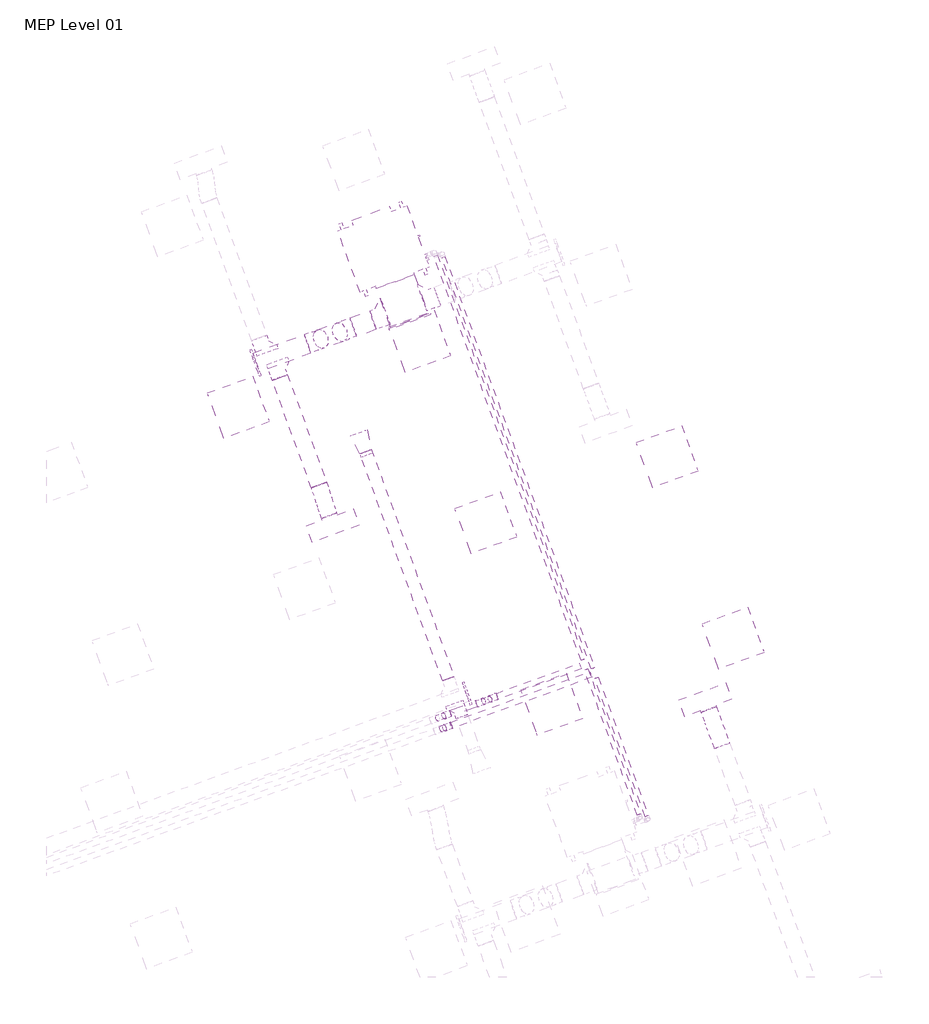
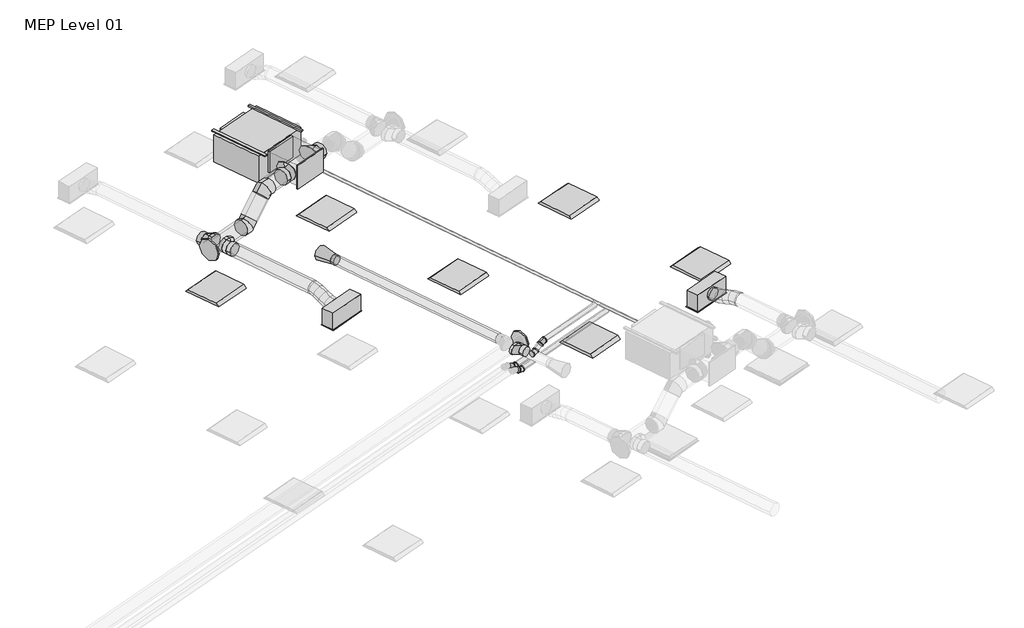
# One storey, part 28 of 29: 10 duct fittings, 10 pipe segments, 8 duct segments, 6 light fixtures, 4 pipe fittings, 3 air terminals, 1 proxy.
"""IFC4 building model written with IfcOpenShell, lengths in millimetres."""

from ifc_helpers import new_model, si_unit, point, frame, frame_2d, origin, place, context, project, spatial, polyline, circle_curve, ellipse_curve, trimmed, segment, composite_curve, outline, extrude, transform, mapped, element, save
from ifc_brep_helpers import plane_surface, cylinder_surface, advanced_brep
from components import air_terminal_b88b8e4d, supply_diffuser_with_plenum_linear_slot_hosted_8c379eed, fan_coil_unit_ceiling_ducted_chw_376_lps_233c1d69, dw144_rectangular_blank_end_standard_1669e3e3, dw144_round_blank_end_standard_e3d0b58b, dw144_round_blank_end_standard_5beff049, dw144_round_segmented_bend_slip_joint_standard_636bd9c1, dw144_round_shoe_branch_slip_joint_standard_559552f4, dw144_round_shoe_branch_slip_joint_standard_4a92c8a1, dw144_round_shoe_branch_slip_joint_standard_671412f0, dw144_round_shoe_branch_slip_joint_standard_54bfcc3c, light_fixture_600x600_230_1c7c1157, light_fixture_600x600_230_b730b5ca, elbow_threaded_gmi_standard_e52ea759

model = new_model("IFC4")

# Units and contexts
model_context = context("Model", 3, world=origin())
ifc_project = project(units=[si_unit("LENGTHUNIT", "METRE", prefix="MILLI")], contexts=[model_context])

# Site, building, storey
site = spatial("IfcSite", under=ifc_project)
building = spatial("IfcBuilding", under=site)
storey = spatial("IfcBuildingStorey", under=building, Name="MEP Level 01", Elevation=3900.0)

# Air terminals
placement = place(None, origin())
air_terminal_shape = air_terminal_b88b8e4d(model_context)
element("IfcAirTerminal", 1, ObjectType="Supply_Bell_Mouth_Grille : Supply_Bell_Mouth_Grille", at=placement, inside=storey, context=model_context, shape_type="MappedRepresentation", body=[
    mapped(air_terminal_shape, transform((58081.5319053, 19738.0197173, 7000.0), x_axis=(-0.3420201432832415, 0.9396926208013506, 0.0), y_axis=(-0.9396926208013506, -0.3420201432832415, 0.0), z_axis=(0.0, 0.0, 1.0))),
])
supply_diffuser_with_plenum_linear_slot_hosted_shape = supply_diffuser_with_plenum_linear_slot_hosted_8c379eed(model_context)
element("IfcAirTerminal", 2, ObjectType="Supply Diffuser with Plenum - Linear Slot - Hosted : 600mmx193.8mm-200 In Inlet  4-Slot", at=placement, inside=storey, context=model_context, shape_type="MappedRepresentation", body=[
    mapped(supply_diffuser_with_plenum_linear_slot_hosted_shape, transform((57672.5704775, 18817.9253945, 6700.0), x_axis=(0.939692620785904, 0.342020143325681, 0.0), y_axis=(0.342020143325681, -0.939692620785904, 0.0), z_axis=(0.0, 0.0, -1.0))),
])
element("IfcAirTerminal", 3, ObjectType="Supply Diffuser with Plenum - Linear Slot - Hosted : 600mmx193.8mm-200 In Inlet  4-Slot", at=placement, inside=storey, context=model_context, shape_type="MappedRepresentation", body=[
    mapped(supply_diffuser_with_plenum_linear_slot_hosted_shape, transform((62303.835891, 16653.5325978, 6700.0), x_axis=(-0.9396926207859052, -0.3420201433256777, 0.0), y_axis=(-0.3420201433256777, 0.9396926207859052, 0.0), z_axis=(0.0, 0.0, -1.0))),
])

# Proxy
fan_coil_unit_ceiling_ducted_chw_376_lps_shape = fan_coil_unit_ceiling_ducted_chw_376_lps_233c1d69(model_context)
element("IfcBuildingElementProxy", 4, Name="Fan Coil Unit - Ceiling Ducted - CHW : 376 LPS", ObjectType="Fan Coil Unit - Ceiling Ducted - CHW : 376 LPS", at=placement, inside=storey, context=model_context, shape_type="MappedRepresentation", body=[
    mapped(fan_coil_unit_ceiling_ducted_chw_376_lps_shape, transform((58013.066855, 21719.3871216, 7115.575), x_axis=(0.9396926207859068, 0.34202014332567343, 0.0), y_axis=(-0.34202014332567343, 0.9396926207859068, 0.0), z_axis=(0.0, 0.0, 1.0))),
])

# Duct fittings
dw144_rectangular_blank_end_standard_shape = dw144_rectangular_blank_end_standard_1669e3e3(model_context)
element("IfcDuctFitting", 5, ObjectType="DW144 Rectangular Blank End : Standard", at=placement, inside=storey, context=model_context, shape_type="MappedRepresentation", body=[
    mapped(dw144_rectangular_blank_end_standard_shape, transform((58629.0952993, 21363.6262528, 7369.575), x_axis=(0.34202014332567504, -0.9396926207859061, 0.0), y_axis=(0.9396926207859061, 0.34202014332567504, 0.0), z_axis=(0.0, 0.0, 1.0))),
])
dw144_round_blank_end_standard_shape = dw144_round_blank_end_standard_e3d0b58b(model_context)
element("IfcDuctFitting", 6, ObjectType="DW144 Round Blank End : Standard", at=placement, inside=storey, context=model_context, shape_type="MappedRepresentation", body=[
    mapped(dw144_round_blank_end_standard_shape, transform((56721.5404125, 20844.6765966, 6972.2088531), x_axis=(-0.9396926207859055, -0.3420201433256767, 0.0), y_axis=(0.3420201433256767, -0.9396926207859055, 0.0), z_axis=(0.0, 0.0, 1.0))),
])
dw144_round_blank_end_standard_2_shape = dw144_round_blank_end_standard_5beff049(model_context)
element("IfcDuctFitting", 7, ObjectType="DW144 Round Blank End : Standard", at=placement, inside=storey, context=model_context, shape_type="MappedRepresentation", body=[
    mapped(dw144_round_blank_end_standard_2_shape, transform((59334.3056083, 16727.5734979, 7000.0), x_axis=(0.9396926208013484, 0.34202014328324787, 0.0), y_axis=(-0.34202014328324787, 0.9396926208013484, 0.0), z_axis=(0.0, 0.0, 1.0))),
])
dw144_round_segmented_bend_slip_joint_standard_shape = dw144_round_segmented_bend_slip_joint_standard_636bd9c1(model_context)
element("IfcDuctFitting", 8, ObjectType="DW144 Round Segmented Bend - Slip Joint : Standard", at=placement, inside=storey, context=model_context, shape_type="MappedRepresentation", body=[
    mapped(dw144_round_segmented_bend_slip_joint_standard_shape, transform((57456.9817646, 21112.3553578, 6972.2088531), x_axis=(-0.6644630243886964, -0.24184476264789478, -0.7071067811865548), y_axis=(-0.6644630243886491, -0.24184476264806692, 0.7071067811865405), z_axis=(-0.34202014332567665, 0.9396926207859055, 0.0))),
])
element("IfcDuctFitting", 9, ObjectType="DW144 Round Segmented Bend - Slip Joint : Standard", at=placement, inside=storey, context=model_context, shape_type="MappedRepresentation", body=[
    mapped(dw144_round_segmented_bend_slip_joint_standard_shape, transform((57830.3838005, 21248.2625843, 7369.575), x_axis=(-0.9396926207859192, -0.3420201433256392, 0.0), y_axis=(0.0, 0.0, -1.0000000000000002), z_axis=(0.3420201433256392, -0.9396926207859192, 0.0))),
])
dw144_round_shoe_branch_slip_joint_standard_shape = dw144_round_shoe_branch_slip_joint_standard_559552f4(model_context)
element("IfcDuctFitting", 10, ObjectType="DW144 Round Shoe Branch - Slip Joint : Standard", at=placement, inside=storey, context=model_context, shape_type="MappedRepresentation", body=[
    mapped(dw144_round_shoe_branch_slip_joint_standard_shape, transform((56809.6255441, 21009.7591842, 6972.2088531), x_axis=(-0.3420201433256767, 0.9396926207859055, 0.0), y_axis=(0.9396926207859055, 0.3420201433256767, 0.0), z_axis=(0.0, 0.0, -1.0))),
])
element("IfcDuctFitting", 11, ObjectType="DW144 Round Shoe Branch - Slip Joint : Standard", at=placement, inside=storey, context=model_context, shape_type="MappedRepresentation", body=[
    mapped(dw144_round_shoe_branch_slip_joint_standard_shape, transform((56963.6827341, 20799.7869726, 6972.2088531), x_axis=(0.3420201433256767, -0.9396926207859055, 0.0), y_axis=(0.9396926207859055, 0.3420201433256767, 0.0), z_axis=(0.0, 0.0, 1.0))),
])
dw144_round_shoe_branch_slip_joint_standard_2_shape = dw144_round_shoe_branch_slip_joint_standard_4a92c8a1(model_context)
element("IfcDuctFitting", 12, ObjectType="DW144 Round Shoe Branch - Slip Joint : Standard", at=placement, inside=storey, context=model_context, shape_type="MappedRepresentation", body=[
    mapped(dw144_round_shoe_branch_slip_joint_standard_2_shape, transform((58807.6641261, 21603.9635334, 7369.575), x_axis=(0.9396926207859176, 0.3420201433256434, 0.0), y_axis=(0.3420201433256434, -0.9396926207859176, 0.0), z_axis=(0.0, 0.0, -1.0))),
])
dw144_round_shoe_branch_slip_joint_standard_3_shape = dw144_round_shoe_branch_slip_joint_standard_671412f0(model_context)
element("IfcDuctFitting", 13, ObjectType="DW144 Round Shoe Branch - Slip Joint : Standard", at=placement, inside=storey, context=model_context, shape_type="MappedRepresentation", body=[
    mapped(dw144_round_shoe_branch_slip_joint_standard_3_shape, transform((58337.8178157, 21432.9534617, 7369.575), x_axis=(-0.9396926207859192, -0.3420201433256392, 0.0), y_axis=(-0.3420201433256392, 0.9396926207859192, 0.0), z_axis=(0.0, 0.0, -1.0))),
])
dw144_round_shoe_branch_slip_joint_standard_4_shape = dw144_round_shoe_branch_slip_joint_standard_54bfcc3c(model_context)
element("IfcDuctFitting", 14, ObjectType="DW144 Round Shoe Branch - Slip Joint : Standard", at=placement, inside=storey, context=model_context, shape_type="MappedRepresentation", body=[
    mapped(dw144_round_shoe_branch_slip_joint_standard_4_shape, transform((59229.8193689, 16583.1258396, 7000.0), x_axis=(0.3420201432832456, -0.9396926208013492, 0.0), y_axis=(-0.9396926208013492, -0.3420201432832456, 0.0), z_axis=(0.0, 0.0, -1.0))),
])

# Duct segments
element("IfcDuctSegment", 15, ObjectType="DW144 Flanged Med Radius Bend / Shoe Branch", at=placement, inside=storey, context=model_context, shape_type="SweptSolid", body=[
    extrude(outline(polyline([(58216.4584777, 21766.3855027), (58686.3047881, 21937.3955743), (58864.0184545, 21449.1312886), (58394.1721442, 21278.1212169), (58216.4584777, 21766.3855027)])), frame((0.0, 0.0, 7194.575), z_axis=(0.0, 0.0, 1.0), x_axis=(1.0, 0.0, 0.0)), (0.0, 0.0, 1.0), 350.0),
])
element("IfcDuctSegment", 16, ObjectType="DW144 Segmented Bend / Shoe Branch", at=placement, inside=storey, context=model_context, shape_type="SweptSolid", body=[
    extrude(outline(composite_curve([segment(trimmed(circle_curve(frame_2d((0.0, 125.0)), 125.0), [point((125.0, 125.0))], [point((0.0, 0.0))], False, "CARTESIAN"), True, "CONTINUOUS"), segment(trimmed(circle_curve(frame_2d((0.0, 125.0)), 125.0), [point((0.0, 0.0))], [point((-125.0, 125.0))], False, "CARTESIAN"), True, "CONTINUOUS"), segment(trimmed(circle_curve(frame_2d((0.0, 125.0)), 125.0), [point((-125.0, 125.0))], [point((0.0, 250.0))], False, "CARTESIAN"), True, "CONTINUOUS"), segment(trimmed(circle_curve(frame_2d((0.0, 125.0)), 125.0), [point((0.0, 250.0))], [point((125.0, 125.0))], False, "CARTESIAN"), True, "CONTINUOUS")], self_intersect=False)), frame((56721.5404125, 20844.6765966, 7097.2088531), z_axis=(0.9396926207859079, 0.3420201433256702, 0.0), x_axis=(0.3420201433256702, -0.9396926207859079, 0.0)), (0.0, 0.0, 1.0), 679.0869492),
])
element("IfcDuctSegment", 17, ObjectType="DW144 Segmented Bend / Shoe Branch", at=placement, inside=storey, context=model_context, shape_type="SweptSolid", body=[
    extrude(outline(composite_curve([segment(trimmed(circle_curve(frame_2d((0.0, 100.0)), 100.0), [point((100.0, 100.0))], [point((0.0, 0.0))], False, "CARTESIAN"), True, "CONTINUOUS"), segment(trimmed(circle_curve(frame_2d((0.0, 100.0)), 100.0), [point((0.0, 0.0))], [point((-100.0, 100.0))], False, "CARTESIAN"), True, "CONTINUOUS"), segment(trimmed(circle_curve(frame_2d((0.0, 100.0)), 100.0), [point((-100.0, 100.0))], [point((0.0, 200.0))], False, "CARTESIAN"), True, "CONTINUOUS"), segment(trimmed(circle_curve(frame_2d((0.0, 100.0)), 100.0), [point((0.0, 200.0))], [point((100.0, 100.0))], False, "CARTESIAN"), True, "CONTINUOUS")], self_intersect=False)), frame((57501.7133926, 19321.5598874, 7072.2088531), z_axis=(-0.34202014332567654, 0.9396926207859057, 0.0), x_axis=(0.9396926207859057, 0.34202014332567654, 0.0)), (0.0, 0.0, 1.0), 1423.0964067),
])
element("IfcDuctSegment", 18, ObjectType="DW144 Segmented Bend / Shoe Branch", at=placement, inside=storey, context=model_context, shape_type="SweptSolid", body=[
    extrude(outline(composite_curve([segment(trimmed(circle_curve(frame_2d((0.0, -125.0)), 125.0), [point((-125.0, -125.0))], [point((0.0, 0.0))], False, "CARTESIAN"), True, "CONTINUOUS"), segment(trimmed(circle_curve(frame_2d((0.0, -125.0)), 125.0), [point((0.0, 0.0))], [point((125.0, -125.0))], False, "CARTESIAN"), True, "CONTINUOUS"), segment(trimmed(circle_curve(frame_2d((0.0, -125.0)), 125.0), [point((125.0, -125.0))], [point((0.0, -250.0))], False, "CARTESIAN"), True, "CONTINUOUS"), segment(trimmed(circle_curve(frame_2d((0.0, -125.0)), 125.0), [point((0.0, -250.0))], [point((-125.0, -125.0))], False, "CARTESIAN"), True, "CONTINUOUS")], self_intersect=False)), frame((57927.6921575, 21283.6799298, 7244.575), z_axis=(0.9396926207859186, 0.3420201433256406, 0.0), x_axis=(0.3420201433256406, -0.9396926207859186, 0.0)), (0.0, 0.0, 1.0), 261.4466094),
])
element("IfcDuctSegment", 19, ObjectType="DW144 Segmented Bend / Shoe Branch", at=placement, inside=storey, context=model_context, shape_type="SweptSolid", body=[
    extrude(outline(composite_curve([segment(trimmed(circle_curve(frame_2d((0.0, -124.9999999)), 125.0), [point((-57.2076923, -13.8591886))], [point((111.1408113, -67.7923077))], False, "CARTESIAN"), True, "CONTINUOUS"), segment(trimmed(circle_curve(frame_2d((0.0, -124.9999999)), 125.0), [point((111.1408113, -67.7923077))], [point((57.2076923, -236.1408113))], False, "CARTESIAN"), True, "CONTINUOUS"), segment(trimmed(circle_curve(frame_2d((0.0, -124.9999999)), 125.0), [point((57.2076923, -236.1408113))], [point((-111.1408114, -182.2076923))], False, "CARTESIAN"), True, "CONTINUOUS"), segment(trimmed(circle_curve(frame_2d((0.0, -124.9999999)), 125.0), [point((-111.1408114, -182.2076923))], [point((-57.2076923, -13.8591886))], False, "CARTESIAN"), True, "CONTINUOUS")], self_intersect=False)), frame((57525.7891637, 21255.672784, 7004.9802107), z_axis=(0.6644630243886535, 0.24184476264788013, 0.7071067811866), x_axis=(0.7473211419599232, -0.21503058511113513, -0.6287073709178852)), (0.0, 0.0, 1.0), 354.8538129),
])
element("IfcDuctSegment", 20, ObjectType="DW144 Segmented Bend / Shoe Branch", at=placement, inside=storey, context=model_context, shape_type="SweptSolid", body=[
    extrude(outline(composite_curve([segment(trimmed(circle_curve(frame_2d((0.0, 75.0)), 75.0), [point((75.0, 75.0))], [point((0.0, 0.0))], False, "CARTESIAN"), True, "CONTINUOUS"), segment(trimmed(circle_curve(frame_2d((0.0, 75.0)), 75.0), [point((0.0, 0.0))], [point((-75.0, 75.0))], False, "CARTESIAN"), True, "CONTINUOUS"), segment(trimmed(circle_curve(frame_2d((0.0, 75.0)), 75.0), [point((-75.0, 75.0))], [point((0.0, 150.0))], False, "CARTESIAN"), True, "CONTINUOUS"), segment(trimmed(circle_curve(frame_2d((0.0, 75.0)), 75.0), [point((0.0, 150.0))], [point((75.0, 75.0))], False, "CARTESIAN"), True, "CONTINUOUS")], self_intersect=False)), frame((59110.1123187, 16912.0182569, 7075.0), z_axis=(-0.3420201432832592, 0.9396926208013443, 0.0), x_axis=(0.9396926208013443, 0.3420201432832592, 0.0)), (0.0, 0.0, 1.0), 3007.3679391),
])
element("IfcDuctSegment", 21, ObjectType="Flex - Round", at=placement, inside=storey, context=model_context, shape_type="AdvancedBrep", body=[
    advanced_brep(
    [(57595.6826547, 19355.7619017, 6972.2088531), (57501.7133926, 19321.5598874, 6872.2088531), (57407.7441305, 19287.3578731, 6972.2088531), (57501.7133926, 19321.5598874, 7072.2088531), (57602.1041255, 19338.1190557, 6972.2088531), (57504.0916899, 19315.0255693, 6872.2088531), (57413.4350701, 19271.722145, 6972.2088531), (57511.4475057, 19294.8156315, 7072.2088531), (57722.4533431, 18973.2537876, 6854.4), (57628.484081, 18939.0517733, 6954.4), (57534.5148189, 18904.849759, 6854.4), (57628.484081, 18939.0517733, 6754.4), (57629.9247331, 19256.2182403, 6953.3905604), (57525.1921039, 19252.9082665, 6857.9362042), (57440.0414556, 19193.3958665, 6954.2118792), (57544.7740848, 19196.7058403, 7049.6662355), (57660.283183, 19160.955101, 6912.5672617), (57552.8628863, 19166.0788793, 6820.7270377), (57469.9142906, 19099.6565597, 6914.0415914), (57577.3345874, 19094.5327814, 7005.8818154), (57690.1560181, 19067.2157942, 6872.3969739), (57585.4233888, 19063.9058204, 6776.9426177), (57500.2727405, 19004.3934204, 6873.2182927), (57605.0053698, 19007.7033942, 6968.6726489), (57716.7624035, 18988.8895157, 6854.4), (57618.7499679, 18965.7960292, 6754.4), (57528.0933481, 18922.492605, 6854.4), (57626.1057837, 18945.5860914, 6954.4)],
    [
        (0, 1, circle_curve(frame((57501.7133926, 19321.5598874, 6972.2088531), z_axis=(-0.34202014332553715, 0.9396926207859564, 0.0), x_axis=(0.9396926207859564, 0.34202014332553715, 0.0)), 100.0)),
        (1, 2, circle_curve(frame((57501.7133926, 19321.5598874, 6972.2088531), z_axis=(-0.34202014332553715, 0.9396926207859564, 0.0), x_axis=(0.9396926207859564, 0.34202014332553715, 0.0)), 100.0)),
        (2, 3, circle_curve(frame((57501.7133926, 19321.5598874, 6972.2088531), z_axis=(-0.34202014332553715, 0.9396926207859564, 0.0), x_axis=(0.9396926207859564, 0.34202014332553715, 0.0)), 100.0)),
        (3, 0, circle_curve(frame((57501.7133926, 19321.5598874, 6972.2088531), z_axis=(-0.34202014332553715, 0.9396926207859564, 0.0), x_axis=(0.9396926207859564, 0.34202014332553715, 0.0)), 100.0)),
        (0, 4),
        (4, 5, ellipse_curve(frame((57507.7695978, 19304.9206004, 6972.2088531), z_axis=(-0.3300629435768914, 0.9378849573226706, 0.10691239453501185), x_axis=(-0.1290757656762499, 0.06735376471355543, -0.9893446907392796)), 100.582195, 100.0)),
        (5, 1),
        (5, 6, ellipse_curve(frame((57507.7695978, 19304.9206004, 6972.2088531), z_axis=(-0.3300629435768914, 0.9378849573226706, 0.10691239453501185), x_axis=(-0.1290757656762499, 0.06735376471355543, -0.9893446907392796)), 100.582195, 100.0)),
        (6, 2),
        (6, 7, ellipse_curve(frame((57507.7695978, 19304.9206004, 6972.2088531), z_axis=(-0.3300629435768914, 0.9378849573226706, 0.10691239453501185), x_axis=(-0.1290757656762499, 0.06735376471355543, -0.9893446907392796)), 100.582195, 100.0)),
        (7, 3),
        (7, 4, ellipse_curve(frame((57507.7695978, 19304.9206004, 6972.2088531), z_axis=(-0.3300629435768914, 0.9378849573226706, 0.10691239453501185), x_axis=(-0.1290757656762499, 0.06735376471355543, -0.9893446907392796)), 100.582195, 100.0)),
        (8, 9, circle_curve(frame((57628.484081, 18939.0517733, 6854.4), z_axis=(0.342020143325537, -0.9396926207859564, 0.0), x_axis=(0.9396926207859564, 0.342020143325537, 0.0)), 100.0)),
        (9, 10, circle_curve(frame((57628.484081, 18939.0517733, 6854.4), z_axis=(0.342020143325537, -0.9396926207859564, 0.0), x_axis=(0.9396926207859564, 0.342020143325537, 0.0)), 100.0)),
        (10, 11, circle_curve(frame((57628.484081, 18939.0517733, 6854.4), z_axis=(0.342020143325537, -0.9396926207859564, 0.0), x_axis=(0.9396926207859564, 0.342020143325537, 0.0)), 100.0)),
        (11, 8, circle_curve(frame((57628.484081, 18939.0517733, 6854.4), z_axis=(0.342020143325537, -0.9396926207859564, 0.0), x_axis=(0.9396926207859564, 0.342020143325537, 0.0)), 100.0)),
        (4, 12),
        (12, 13, ellipse_curve(frame((57534.9830943, 19224.8070534, 6953.8012198), z_axis=(-0.2988301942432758, 0.9071022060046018, 0.29642217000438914), x_axis=(-0.19053245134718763, 0.2476495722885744, -0.9499300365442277)), 100.3812182, 100.0)),
        (13, 5),
        (13, 14, ellipse_curve(frame((57534.9830943, 19224.8070534, 6953.8012198), z_axis=(-0.2988301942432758, 0.9071022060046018, 0.29642217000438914), x_axis=(-0.19053245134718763, 0.2476495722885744, -0.9499300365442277)), 100.3812182, 100.0)),
        (14, 6),
        (14, 15, ellipse_curve(frame((57534.9830943, 19224.8070534, 6953.8012198), z_axis=(-0.2988301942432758, 0.9071022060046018, 0.29642217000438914), x_axis=(-0.19053245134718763, 0.2476495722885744, -0.9499300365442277)), 100.3812182, 100.0)),
        (15, 7),
        (15, 12, ellipse_curve(frame((57534.9830943, 19224.8070534, 6953.8012198), z_axis=(-0.2988301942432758, 0.9071022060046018, 0.29642217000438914), x_axis=(-0.19053245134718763, 0.2476495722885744, -0.9499300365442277)), 100.3812182, 100.0)),
        (12, 16),
        (16, 17, circle_curve(frame((57565.0987368, 19130.3058303, 6913.3044266), z_axis=(-0.2811058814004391, 0.8820947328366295, 0.3780057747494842), x_axis=(0.9518444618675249, 0.3064927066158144, -0.007371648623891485)), 100.0)),
        (17, 13),
        (17, 18, circle_curve(frame((57565.0987368, 19130.3058303, 6913.3044266), z_axis=(-0.2811058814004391, 0.8820947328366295, 0.3780057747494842), x_axis=(0.9518444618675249, 0.3064927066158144, -0.007371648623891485)), 100.0)),
        (18, 14),
        (18, 19, circle_curve(frame((57565.0987368, 19130.3058303, 6913.3044266), z_axis=(-0.2811058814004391, 0.8820947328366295, 0.3780057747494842), x_axis=(0.9518444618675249, 0.3064927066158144, -0.007371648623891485)), 100.0)),
        (19, 15),
        (19, 16, circle_curve(frame((57565.0987368, 19130.3058303, 6913.3044266), z_axis=(-0.2811058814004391, 0.8820947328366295, 0.3780057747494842), x_axis=(0.9518444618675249, 0.3064927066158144, -0.007371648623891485)), 100.0)),
        (16, 20),
        (20, 21, ellipse_curve(frame((57595.2143793, 19035.8046073, 6872.8076333), z_axis=(-0.2988301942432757, 0.9071022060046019, 0.2964221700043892), x_axis=(0.19053245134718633, -0.24764957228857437, 0.9499300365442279)), 100.3812182, 100.0)),
        (21, 17),
        (21, 22, ellipse_curve(frame((57595.2143793, 19035.8046073, 6872.8076333), z_axis=(-0.2988301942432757, 0.9071022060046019, 0.2964221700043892), x_axis=(0.19053245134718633, -0.24764957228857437, 0.9499300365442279)), 100.3812182, 100.0)),
        (22, 18),
        (22, 23, ellipse_curve(frame((57595.2143793, 19035.8046073, 6872.8076333), z_axis=(-0.2988301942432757, 0.9071022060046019, 0.2964221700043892), x_axis=(0.19053245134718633, -0.24764957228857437, 0.9499300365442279)), 100.3812182, 100.0)),
        (23, 19),
        (23, 20, ellipse_curve(frame((57595.2143793, 19035.8046073, 6872.8076333), z_axis=(-0.2988301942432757, 0.9071022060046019, 0.2964221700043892), x_axis=(0.19053245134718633, -0.24764957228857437, 0.9499300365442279)), 100.3812182, 100.0)),
        (20, 24),
        (24, 25, ellipse_curve(frame((57622.4278758, 18955.6910603, 6854.4), z_axis=(-0.3300629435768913, 0.9378849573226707, 0.10691239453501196), x_axis=(0.12907576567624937, -0.06735376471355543, 0.9893446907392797)), 100.582195, 100.0)),
        (25, 21),
        (25, 26, ellipse_curve(frame((57622.4278758, 18955.6910603, 6854.4), z_axis=(-0.3300629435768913, 0.9378849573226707, 0.10691239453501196), x_axis=(0.12907576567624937, -0.06735376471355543, 0.9893446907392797)), 100.582195, 100.0)),
        (26, 22),
        (26, 27, ellipse_curve(frame((57622.4278758, 18955.6910603, 6854.4), z_axis=(-0.3300629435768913, 0.9378849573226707, 0.10691239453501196), x_axis=(0.12907576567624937, -0.06735376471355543, 0.9893446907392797)), 100.582195, 100.0)),
        (27, 23),
        (27, 24, ellipse_curve(frame((57622.4278758, 18955.6910603, 6854.4), z_axis=(-0.3300629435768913, 0.9378849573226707, 0.10691239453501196), x_axis=(0.12907576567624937, -0.06735376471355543, 0.9893446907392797)), 100.582195, 100.0)),
        (24, 8),
        (11, 25),
        (10, 26),
        (9, 27),
    ],
    [
        plane_surface(frame((57501.7133926, 19321.5598874, 6872.2088531), z_axis=(-0.3420201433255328, 0.9396926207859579, 0.0), x_axis=(0.9396926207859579, 0.3420201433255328, 0.0))),
        cylinder_surface(frame((57501.7133926, 19321.5598874, 6972.2088531), z_axis=(-0.34202014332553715, 0.9396926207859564, 0.0), x_axis=(0.9396926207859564, 0.34202014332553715, 0.0)), 100.0),
        plane_surface(frame((57628.484081, 18939.0517733, 6754.4), z_axis=(0.3420201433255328, -0.9396926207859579, 0.0), x_axis=(0.9396926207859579, 0.3420201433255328, 0.0))),
        cylinder_surface(frame((57507.7695978, 19304.9206004, 6972.2088531), z_axis=(-0.3142847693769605, 0.925219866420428, 0.21258711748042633), x_axis=(0.9467017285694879, 0.32210352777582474, -0.0022703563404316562)), 100.0),
        cylinder_surface(frame((57534.9830943, 19224.8070534, 6953.8012198), z_axis=(-0.281105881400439, 0.8820947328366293, 0.3780057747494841), x_axis=(0.9518444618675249, 0.3064927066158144, -0.007371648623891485)), 100.0),
        cylinder_surface(frame((57565.0987368, 19130.3058303, 6913.3044266), z_axis=(-0.281105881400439, 0.8820947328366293, 0.37800577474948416), x_axis=(0.9518444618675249, 0.3064927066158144, -0.007371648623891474)), 100.0),
        cylinder_surface(frame((57595.2143793, 19035.8046073, 6872.8076333), z_axis=(-0.3142847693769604, 0.9252198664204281, 0.21258711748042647), x_axis=(0.9467017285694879, 0.32210352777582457, -0.0022703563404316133)), 100.0),
        cylinder_surface(frame((57622.4278758, 18955.6910603, 6854.4), z_axis=(-0.342020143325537, 0.9396926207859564, 0.0), x_axis=(0.9396926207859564, 0.342020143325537, 0.0)), 100.0),
    ],
    [
        (0, [[1, 2, 3, 4]]),
        (1, [[-1, 5, 6, 7]]),
        (1, [[-2, -7, 8, 9]]),
        (1, [[-3, -9, 10, 11]]),
        (1, [[-4, -11, 12, -5]]),
        (2, [[13, 14, 15, 16]]),
        (3, [[-6, 17, 18, 19]]),
        (3, [[-8, -19, 20, 21]]),
        (3, [[-10, -21, 22, 23]]),
        (3, [[-12, -23, 24, -17]]),
        (4, [[-18, 25, 26, 27]]),
        (4, [[-20, -27, 28, 29]]),
        (4, [[-22, -29, 30, 31]]),
        (4, [[-24, -31, 32, -25]]),
        (5, [[-26, 33, 34, 35]]),
        (5, [[-28, -35, 36, 37]]),
        (5, [[-30, -37, 38, 39]]),
        (5, [[-32, -39, 40, -33]]),
        (6, [[-34, 41, 42, 43]]),
        (6, [[-36, -43, 44, 45]]),
        (6, [[-38, -45, 46, 47]]),
        (6, [[-40, -47, 48, -41]]),
        (7, [[-42, 49, -16, 50]]),
        (7, [[-44, -50, -15, 51]]),
        (7, [[-46, -51, -14, 52]]),
        (7, [[-48, -52, -13, -49]]),
    ],
),
])
element("IfcDuctSegment", 22, ObjectType="Flex - Round", at=placement, inside=storey, context=model_context, shape_type="AdvancedBrep", body=[
    advanced_brep(
    [(62419.4860197, 16043.4060404, 6972.2088531), (62513.4552818, 16077.6080547, 6872.2088531), (62607.4245439, 16111.8100691, 6972.2088531), (62513.4552818, 16077.6080547, 7072.2088531), (62414.3964087, 16057.3896319, 6972.2088531), (62511.2743759, 16083.6000445, 6872.2088531), (62602.3349328, 16125.7936606, 6972.2088531), (62505.4569656, 16099.583248, 7072.2088531), (62253.9530254, 16498.2042046, 6854.4), (62347.9222874, 16532.406219, 6954.4), (62441.8915495, 16566.6082333, 6854.4), (62347.9222874, 16532.406219, 6754.4), (62377.6496427, 16158.3505416, 6953.8012198), (62480.0398713, 16169.4161407, 6856.5624883), (62565.5881669, 16226.7545703, 6953.8012198), (62463.1979383, 16215.6889712, 7051.0399514), (62336.7195226, 16270.8051225, 6913.3044266), (62441.6520069, 16274.8859312, 6818.581036), (62524.6580467, 16339.2091512, 6913.3044266), (62419.7255623, 16335.1283425, 7008.0278172), (62295.7894024, 16383.2597034, 6872.8076333), (62398.179631, 16394.3253025, 6775.5689017), (62483.7279266, 16451.6637321, 6872.8076333), (62381.337698, 16440.598133, 6970.0463649), (62259.0426364, 16484.2206131, 6854.4), (62355.9206037, 16510.4310257, 6754.4), (62446.9811606, 16552.6246418, 6854.4), (62350.1031934, 16526.4142292, 6954.4)],
    [
        (0, 1, circle_curve(frame((62513.4552818, 16077.6080547, 6972.2088531), z_axis=(0.34202014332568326, -0.9396926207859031, 0.0), x_axis=(-0.9396926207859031, -0.34202014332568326, 0.0)), 100.0)),
        (1, 2, circle_curve(frame((62513.4552818, 16077.6080547, 6972.2088531), z_axis=(0.34202014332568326, -0.9396926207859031, 0.0), x_axis=(-0.9396926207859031, -0.34202014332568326, 0.0)), 100.0)),
        (2, 3, circle_curve(frame((62513.4552818, 16077.6080547, 6972.2088531), z_axis=(0.34202014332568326, -0.9396926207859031, 0.0), x_axis=(-0.9396926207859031, -0.34202014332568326, 0.0)), 100.0)),
        (3, 0, circle_curve(frame((62513.4552818, 16077.6080547, 6972.2088531), z_axis=(0.34202014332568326, -0.9396926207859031, 0.0), x_axis=(-0.9396926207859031, -0.34202014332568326, 0.0)), 100.0)),
        (0, 4),
        (4, 5, ellipse_curve(frame((62508.3656707, 16091.5916462, 6972.2088531), z_axis=(0.3407899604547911, -0.936312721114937, 0.08473895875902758), x_axis=(0.02898243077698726, -0.07962857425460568, -0.9964031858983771)), 100.3609798, 100.0)),
        (5, 1),
        (5, 6, ellipse_curve(frame((62508.3656707, 16091.5916462, 6972.2088531), z_axis=(0.3407899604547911, -0.936312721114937, 0.08473895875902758), x_axis=(0.02898243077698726, -0.07962857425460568, -0.9964031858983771)), 100.3609798, 100.0)),
        (6, 2),
        (6, 7, ellipse_curve(frame((62508.3656707, 16091.5916462, 6972.2088531), z_axis=(0.3407899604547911, -0.936312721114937, 0.08473895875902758), x_axis=(0.02898243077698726, -0.07962857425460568, -0.9964031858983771)), 100.3609798, 100.0)),
        (7, 3),
        (7, 4, ellipse_curve(frame((62508.3656707, 16091.5916462, 6972.2088531), z_axis=(0.3407899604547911, -0.936312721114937, 0.08473895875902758), x_axis=(0.02898243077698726, -0.07962857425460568, -0.9964031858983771)), 100.3609798, 100.0)),
        (8, 9, circle_curve(frame((62347.9222874, 16532.406219, 6854.4), z_axis=(-0.342020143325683, 0.9396926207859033, 0.0), x_axis=(-0.9396926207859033, -0.342020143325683, 0.0)), 100.0)),
        (9, 10, circle_curve(frame((62347.9222874, 16532.406219, 6854.4), z_axis=(-0.342020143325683, 0.9396926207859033, 0.0), x_axis=(-0.9396926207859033, -0.342020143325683, 0.0)), 100.0)),
        (10, 11, circle_curve(frame((62347.9222874, 16532.406219, 6854.4), z_axis=(-0.342020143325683, 0.9396926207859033, 0.0), x_axis=(-0.9396926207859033, -0.342020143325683, 0.0)), 100.0)),
        (11, 8, circle_curve(frame((62347.9222874, 16532.406219, 6854.4), z_axis=(-0.342020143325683, 0.9396926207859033, 0.0), x_axis=(-0.9396926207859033, -0.342020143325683, 0.0)), 100.0)),
        (4, 12),
        (12, 13, ellipse_curve(frame((62471.6189048, 16192.552556, 6953.8012198), z_axis=(0.3315567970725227, -0.9109448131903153, 0.24545801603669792), x_axis=(0.08395158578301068, -0.23065508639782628, -0.9694072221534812)), 100.307414, 100.0)),
        (13, 5),
        (13, 14, ellipse_curve(frame((62471.6189048, 16192.552556, 6953.8012198), z_axis=(0.3315567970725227, -0.9109448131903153, 0.24545801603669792), x_axis=(0.08395158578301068, -0.23065508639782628, -0.9694072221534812)), 100.307414, 100.0)),
        (14, 6),
        (14, 15, ellipse_curve(frame((62471.6189048, 16192.552556, 6953.8012198), z_axis=(0.3315567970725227, -0.9109448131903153, 0.24545801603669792), x_axis=(0.08395158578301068, -0.23065508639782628, -0.9694072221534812)), 100.307414, 100.0)),
        (15, 7),
        (15, 12, ellipse_curve(frame((62471.6189048, 16192.552556, 6953.8012198), z_axis=(0.3315567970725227, -0.9109448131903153, 0.24545801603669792), x_axis=(0.08395158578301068, -0.23065508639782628, -0.9694072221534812)), 100.307414, 100.0)),
        (12, 16),
        (16, 17, circle_curve(frame((62430.6887846, 16305.0071368, 6913.3044266), z_axis=(0.32397307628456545, -0.8901087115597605, 0.3205431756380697), x_axis=(-0.9396926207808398, -0.34202014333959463, 2.442978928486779e-12)), 100.0)),
        (17, 13),
        (17, 18, circle_curve(frame((62430.6887846, 16305.0071368, 6913.3044266), z_axis=(0.32397307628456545, -0.8901087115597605, 0.3205431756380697), x_axis=(-0.9396926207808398, -0.34202014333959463, 2.442978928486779e-12)), 100.0)),
        (18, 14),
        (18, 19, circle_curve(frame((62430.6887846, 16305.0071368, 6913.3044266), z_axis=(0.32397307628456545, -0.8901087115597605, 0.3205431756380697), x_axis=(-0.9396926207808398, -0.34202014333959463, 2.442978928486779e-12)), 100.0)),
        (19, 15),
        (19, 16, circle_curve(frame((62430.6887846, 16305.0071368, 6913.3044266), z_axis=(0.32397307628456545, -0.8901087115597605, 0.3205431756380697), x_axis=(-0.9396926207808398, -0.34202014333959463, 2.442978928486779e-12)), 100.0)),
        (16, 20),
        (20, 21, ellipse_curve(frame((62389.7586645, 16417.4617177, 6872.8076333), z_axis=(0.3315567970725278, -0.9109448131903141, 0.2454580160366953), x_axis=(-0.08395158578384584, 0.23065508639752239, 0.9694072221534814)), 100.307414, 100.0)),
        (21, 17),
        (21, 22, ellipse_curve(frame((62389.7586645, 16417.4617177, 6872.8076333), z_axis=(0.3315567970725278, -0.9109448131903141, 0.2454580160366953), x_axis=(-0.08395158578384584, 0.23065508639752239, 0.9694072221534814)), 100.307414, 100.0)),
        (22, 18),
        (22, 23, ellipse_curve(frame((62389.7586645, 16417.4617177, 6872.8076333), z_axis=(0.3315567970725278, -0.9109448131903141, 0.2454580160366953), x_axis=(-0.08395158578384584, 0.23065508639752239, 0.9694072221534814)), 100.307414, 100.0)),
        (23, 19),
        (23, 20, ellipse_curve(frame((62389.7586645, 16417.4617177, 6872.8076333), z_axis=(0.3315567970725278, -0.9109448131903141, 0.2454580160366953), x_axis=(-0.08395158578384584, 0.23065508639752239, 0.9694072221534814)), 100.307414, 100.0)),
        (20, 24),
        (24, 25, ellipse_curve(frame((62353.0118985, 16518.4226275, 6854.4), z_axis=(0.3407899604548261, -0.9363127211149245, 0.08473895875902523), x_axis=(-0.028982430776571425, 0.07962857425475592, 0.9964031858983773)), 100.3609798, 100.0)),
        (25, 21),
        (25, 26, ellipse_curve(frame((62353.0118985, 16518.4226275, 6854.4), z_axis=(0.3407899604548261, -0.9363127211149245, 0.08473895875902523), x_axis=(-0.028982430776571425, 0.07962857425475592, 0.9964031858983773)), 100.3609798, 100.0)),
        (26, 22),
        (26, 27, ellipse_curve(frame((62353.0118985, 16518.4226275, 6854.4), z_axis=(0.3407899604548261, -0.9363127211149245, 0.08473895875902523), x_axis=(-0.028982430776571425, 0.07962857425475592, 0.9964031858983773)), 100.3609798, 100.0)),
        (27, 23),
        (27, 24, ellipse_curve(frame((62353.0118985, 16518.4226275, 6854.4), z_axis=(0.3407899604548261, -0.9363127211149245, 0.08473895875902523), x_axis=(-0.028982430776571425, 0.07962857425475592, 0.9964031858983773)), 100.3609798, 100.0)),
        (24, 8),
        (11, 25),
        (10, 26),
        (9, 27),
    ],
    [
        plane_surface(frame((62513.4552818, 16077.6080547, 7072.2088531), z_axis=(0.3420201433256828, -0.9396926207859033, 0.0), x_axis=(0.9396926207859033, 0.3420201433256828, 0.0))),
        cylinder_surface(frame((62513.4552818, 16077.6080547, 6972.2088531), z_axis=(0.34202014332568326, -0.9396926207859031, 0.0), x_axis=(-0.9396926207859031, -0.34202014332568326, 0.0)), 100.0),
        plane_surface(frame((62347.9222874, 16532.406219, 6954.4), z_axis=(-0.3420201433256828, 0.9396926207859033, 0.0), x_axis=(0.9396926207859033, 0.3420201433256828, 0.0))),
        cylinder_surface(frame((62508.3656707, 16091.5916462, 6972.2088531), z_axis=(0.3371082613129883, -0.9261973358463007, 0.16886833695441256), x_axis=(-0.9396926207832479, -0.3420201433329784, 0.0)), 100.0),
        cylinder_surface(frame((62471.6189048, 16192.552556, 6953.8012198), z_axis=(0.32397307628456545, -0.8901087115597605, 0.3205431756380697), x_axis=(-0.9396926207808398, -0.34202014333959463, 2.442978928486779e-12)), 100.0),
        cylinder_surface(frame((62430.6887846, 16305.0071368, 6913.3044266), z_axis=(0.32397307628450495, -0.8901087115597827, 0.32054317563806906), x_axis=(-0.9396926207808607, -0.34202014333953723, 2.422361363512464e-12)), 100.0),
        cylinder_surface(frame((62389.7586645, 16417.4617177, 6872.8076333), z_axis=(0.33710826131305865, -0.9261973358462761, 0.16886833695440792), x_axis=(-0.9396926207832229, -0.3420201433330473, 0.0)), 100.0),
        cylinder_surface(frame((62353.0118985, 16518.4226275, 6854.4), z_axis=(0.342020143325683, -0.9396926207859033, 0.0), x_axis=(-0.9396926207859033, -0.342020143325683, 0.0)), 100.0),
    ],
    [
        (0, [[1, 2, 3, 4]]),
        (1, [[-1, 5, 6, 7]]),
        (1, [[-2, -7, 8, 9]]),
        (1, [[-3, -9, 10, 11]]),
        (1, [[-4, -11, 12, -5]]),
        (2, [[13, 14, 15, 16]]),
        (3, [[-6, 17, 18, 19]]),
        (3, [[-8, -19, 20, 21]]),
        (3, [[-10, -21, 22, 23]]),
        (3, [[-12, -23, 24, -17]]),
        (4, [[-18, 25, 26, 27]]),
        (4, [[-20, -27, 28, 29]]),
        (4, [[-22, -29, 30, 31]]),
        (4, [[-24, -31, 32, -25]]),
        (5, [[-26, 33, 34, 35]]),
        (5, [[-28, -35, 36, 37]]),
        (5, [[-30, -37, 38, 39]]),
        (5, [[-32, -39, 40, -33]]),
        (6, [[-34, 41, 42, 43]]),
        (6, [[-36, -43, 44, 45]]),
        (6, [[-38, -45, 46, 47]]),
        (6, [[-40, -47, 48, -41]]),
        (7, [[-42, 49, -16, 50]]),
        (7, [[-44, -50, -15, 51]]),
        (7, [[-46, -51, -14, 52]]),
        (7, [[-48, -52, -13, -49]]),
    ],
),
])

# Light fixtures
light_fixture_600x600_230_shape = light_fixture_600x600_230_1c7c1157(model_context)
element("IfcLightFixture", 23, ObjectType="ELEKTRA Recessed Lighting Fixture : 600x600 - 230", at=placement, inside=storey, context=model_context, shape_type="MappedRepresentation", body=[
    mapped(light_fixture_600x600_230_shape, transform((61651.2948871, 19289.3070813, 6700.0), x_axis=(0.9396926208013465, 0.342020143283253, 0.0), y_axis=(0.342020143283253, -0.9396926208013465, 0.0), z_axis=(0.0, 0.0, -1.0))),
])
element("IfcLightFixture", 24, ObjectType="ELEKTRA Recessed Lighting Fixture : 600x600 - 230", at=placement, inside=storey, context=model_context, shape_type="MappedRepresentation", body=[
    mapped(light_fixture_600x600_230_shape, transform((62472.143231, 17034.0447913, 6700.0), x_axis=(0.9396926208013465, 0.342020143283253, 0.0), y_axis=(0.342020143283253, -0.9396926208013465, 0.0), z_axis=(0.0, 0.0, -1.0))),
])
element("IfcLightFixture", 25, ObjectType="ELEKTRA Recessed Lighting Fixture : 600x600 - 230", at=placement, inside=storey, context=model_context, shape_type="MappedRepresentation", body=[
    mapped(light_fixture_600x600_230_shape, transform((58575.1842533, 20723.7210273, 6700.0), x_axis=(0.9396926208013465, 0.342020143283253, 0.0), y_axis=(0.342020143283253, -0.9396926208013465, 0.0), z_axis=(0.0, 0.0, -1.0))),
])
element("IfcLightFixture", 26, ObjectType="ELEKTRA Recessed Lighting Fixture : 600x600 - 230", at=placement, inside=storey, context=model_context, shape_type="MappedRepresentation", body=[
    mapped(light_fixture_600x600_230_shape, transform((59396.0325972, 18468.4587374, 6700.0), x_axis=(0.9396926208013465, 0.342020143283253, 0.0), y_axis=(0.342020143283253, -0.9396926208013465, 0.0), z_axis=(0.0, 0.0, -1.0))),
])
element("IfcLightFixture", 27, ObjectType="ELEKTRA Recessed Lighting Fixture : 600x600 - 230", at=placement, inside=storey, context=model_context, shape_type="MappedRepresentation", body=[
    mapped(light_fixture_600x600_230_shape, transform((56319.9219634, 19902.8726834, 6700.0), x_axis=(0.9396926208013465, 0.342020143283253, 0.0), y_axis=(0.342020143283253, -0.9396926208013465, 0.0), z_axis=(0.0, 0.0, -1.0))),
])
light_fixture_600x600_230_2_shape = light_fixture_600x600_230_b730b5ca(model_context)
element("IfcLightFixture", 28, ObjectType="ELEKTRA EM Recessed Lighting Fixture : 600x600 - 230", at=placement, inside=storey, context=model_context, shape_type="MappedRepresentation", body=[
    mapped(light_fixture_600x600_230_2_shape, transform((60216.8809411, 16213.1964474, 6700.0), x_axis=(0.9396926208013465, 0.342020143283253, 0.0), y_axis=(0.342020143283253, -0.9396926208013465, 0.0), z_axis=(0.0, 0.0, -1.0))),
])

# Pipe fittings
elbow_threaded_gmi_standard_shape = elbow_threaded_gmi_standard_e52ea759(model_context)
element("IfcPipeFitting", 29, ObjectType="Elbow - Threaded - GMI : Standard", at=placement, inside=storey, context=model_context, shape_type="MappedRepresentation", body=[
    mapped(elbow_threaded_gmi_standard_shape, transform((59095.4127432, 16467.5161953, 6800.0), x_axis=(-0.9396926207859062, -0.34202014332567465, 0.0), y_axis=(0.0, 0.0, 1.0), z_axis=(-0.34202014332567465, 0.9396926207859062, 0.0))),
])
element("IfcPipeFitting", 30, ObjectType="Elbow - Threaded - GMI : Standard", at=placement, inside=storey, context=model_context, shape_type="MappedRepresentation", body=[
    mapped(elbow_threaded_gmi_standard_shape, transform((59506.806633, 16617.2513258, 6800.0), x_axis=(-0.8137976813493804, -0.2961981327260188, -0.4999999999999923), y_axis=(-0.46984631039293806, -0.1710100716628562, 0.8660254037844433), z_axis=(-0.3420201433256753, 0.9396926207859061, 0.0))),
])
element("IfcPipeFitting", 31, ObjectType="Elbow - Threaded - GMI : Standard", at=placement, inside=storey, context=model_context, shape_type="MappedRepresentation", body=[
    mapped(elbow_threaded_gmi_standard_shape, transform((59669.5661693, 16676.4909523, 6900.0), x_axis=(0.8137976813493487, 0.2961981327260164, 0.5000000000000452), y_axis=(0.4698463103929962, 0.17101007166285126, -0.8660254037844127), z_axis=(-0.34202014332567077, 0.9396926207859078, 0.0))),
])
element("IfcPipeFitting", 32, ObjectType="Elbow - Threaded - GMI : Standard", at=placement, inside=storey, context=model_context, shape_type="MappedRepresentation", body=[
    mapped(elbow_threaded_gmi_standard_shape, transform((59103.488451, 16318.7239262, 6825.0), x_axis=(-0.9396926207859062, -0.34202014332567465, 0.0), y_axis=(0.0, 0.0, 1.0), z_axis=(-0.34202014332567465, 0.9396926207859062, 0.0))),
])

# Pipe segments
element("IfcPipeSegment", 33, ObjectType="Carbon Steel - Threaded", at=placement, inside=storey, context=model_context, shape_type="SweptSolid", body=[
    extrude(outline(composite_curve([segment(trimmed(circle_curve(frame_2d((0.0, 38.3)), 38.3), [point((38.3, 38.3))], [point((0.0, 0.0))], False, "CARTESIAN"), True, "CONTINUOUS"), segment(trimmed(circle_curve(frame_2d((0.0, 38.3)), 38.3), [point((0.0, 0.0))], [point((-38.2999999, 38.3))], False, "CARTESIAN"), True, "CONTINUOUS"), segment(trimmed(circle_curve(frame_2d((0.0, 38.3)), 38.3), [point((-38.2999999, 38.3))], [point((0.0, 76.6))], False, "CARTESIAN"), True, "CONTINUOUS"), segment(trimmed(circle_curve(frame_2d((0.0, 38.3)), 38.3), [point((0.0, 76.6))], [point((38.3, 38.3))], False, "CARTESIAN"), True, "CONTINUOUS")], self_intersect=False)), frame((59716.5508004, 16693.5919595, 6938.3), z_axis=(0.9396926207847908, 0.34202014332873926, 0.0), x_axis=(0.34202014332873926, -0.9396926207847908, 0.0)), (0.0, 0.0, 1.0), 1103.2256485),
])
element("IfcPipeSegment", 34, ObjectType="Carbon Steel - Threaded", at=placement, inside=storey, context=model_context, shape_type="SweptSolid", body=[
    extrude(outline(composite_curve([segment(trimmed(circle_curve(frame_2d((0.0, -38.3)), 38.3), [point((22.5404974, -69.2647538))], [point((-30.9647537, -60.8404974))], False, "CARTESIAN"), True, "CONTINUOUS"), segment(trimmed(circle_curve(frame_2d((0.0, -38.3)), 38.3), [point((-30.9647537, -60.8404974))], [point((-22.5404973, -7.3352462))], False, "CARTESIAN"), True, "CONTINUOUS"), segment(trimmed(circle_curve(frame_2d((0.0, -38.3)), 38.3), [point((-22.5404973, -7.3352462))], [point((30.9647539, -15.7595026))], False, "CARTESIAN"), True, "CONTINUOUS"), segment(trimmed(circle_curve(frame_2d((0.0, -38.3)), 38.3), [point((30.9647539, -15.7595026))], [point((22.5404974, -69.2647538))], False, "CARTESIAN"), True, "CONTINUOUS")], self_intersect=False)), frame((59054.7228591, 16485.6582914, 6844.5206433), z_axis=(-0.8137976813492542, -0.2961981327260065, 0.5000000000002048), x_axis=(0.5811482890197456, -0.4147742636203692, 0.7001635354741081)), (0.0, 0.0, 1.0), 100.0),
])
element("IfcPipeSegment", 35, ObjectType="Carbon Steel - Threaded", at=placement, inside=storey, context=model_context, shape_type="SweptSolid", body=[
    extrude(outline(composite_curve([segment(trimmed(circle_curve(frame_2d((0.0, 38.3)), 38.3), [point((38.3, 38.3))], [point((0.0, 0.0))], False, "CARTESIAN"), True, "CONTINUOUS"), segment(trimmed(circle_curve(frame_2d((0.0, 38.3)), 38.3), [point((0.0, 0.0))], [point((-38.2999999, 38.3))], False, "CARTESIAN"), True, "CONTINUOUS"), segment(trimmed(circle_curve(frame_2d((0.0, 38.3)), 38.3), [point((-38.2999999, 38.3))], [point((0.0, 76.6))], False, "CARTESIAN"), True, "CONTINUOUS"), segment(trimmed(circle_curve(frame_2d((0.0, 38.3)), 38.3), [point((0.0, 76.6))], [point((38.3, 38.3))], False, "CARTESIAN"), True, "CONTINUOUS")], self_intersect=False)), frame((59142.3973743, 16484.6172025, 6838.3), z_axis=(0.9396926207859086, 0.34202014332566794, 0.0), x_axis=(0.34202014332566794, -0.9396926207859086, 0.0)), (0.0, 0.0, 1.0), 337.7962333),
])
element("IfcPipeSegment", 36, ObjectType="Carbon Steel - Threaded", at=placement, inside=storey, context=model_context, shape_type="SweptSolid", body=[
    extrude(outline(composite_curve([segment(trimmed(circle_curve(frame_2d((0.0, 38.3)), 38.3), [point((22.5404974, 7.3352461))], [point((-30.9647538, 15.7595025))], False, "CARTESIAN"), True, "CONTINUOUS"), segment(trimmed(circle_curve(frame_2d((0.0, 38.3)), 38.3), [point((-30.9647538, 15.7595025))], [point((-22.5404974, 69.2647538))], False, "CARTESIAN"), True, "CONTINUOUS"), segment(trimmed(circle_curve(frame_2d((0.0, 38.3)), 38.3), [point((-22.5404974, 69.2647538))], [point((30.9647538, 60.8404973))], False, "CARTESIAN"), True, "CONTINUOUS"), segment(trimmed(circle_curve(frame_2d((0.0, 38.3)), 38.3), [point((30.9647538, 60.8404973))], [point((22.5404974, 7.3352461))], False, "CARTESIAN"), True, "CONTINUOUS")], self_intersect=False)), frame((59547.4965171, 16599.1092297, 6844.5206433), z_axis=(0.8137976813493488, 0.29619813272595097, 0.5000000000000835), x_axis=(0.581148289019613, -0.4147742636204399, -0.7001635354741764)), (0.0, 0.0, 1.0), 100.0),
])
element("IfcPipeSegment", 37, ObjectType="Carbon Steel - Threaded", at=placement, inside=storey, context=model_context, shape_type="SweptSolid", body=[
    extrude(outline(composite_curve([segment(trimmed(circle_curve(frame_2d((1e-07, -38.3)), 38.3), [point((22.5404974, -69.2647538))], [point((-30.9647538, -60.8404974))], False, "CARTESIAN"), True, "CONTINUOUS"), segment(trimmed(circle_curve(frame_2d((1e-07, -38.3)), 38.3), [point((-30.9647538, -60.8404974))], [point((-22.5404973, -7.3352462))], False, "CARTESIAN"), True, "CONTINUOUS"), segment(trimmed(circle_curve(frame_2d((1e-07, -38.3)), 38.3), [point((-22.5404973, -7.3352462))], [point((30.9647539, -15.7595026))], False, "CARTESIAN"), True, "CONTINUOUS"), segment(trimmed(circle_curve(frame_2d((1e-07, -38.3)), 38.3), [point((30.9647539, -15.7595026))], [point((22.5404974, -69.2647538))], False, "CARTESIAN"), True, "CONTINUOUS")], self_intersect=False)), frame((59062.7985669, 16336.8660223, 6869.5206433), z_axis=(-0.8137976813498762, -0.29619813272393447, 0.5000000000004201), x_axis=(0.5811482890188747, -0.41477426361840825, 0.7001635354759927)), (0.0, 0.0, 1.0), 50.0),
])
element("IfcPipeSegment", 38, ObjectType="Carbon Steel - Threaded", at=placement, inside=storey, context=model_context, shape_type="SweptSolid", body=[
    extrude(outline(composite_curve([segment(trimmed(circle_curve(frame_2d((0.0, 38.3)), 38.3), [point((38.2999999, 38.3))], [point((0.0, 0.0))], False, "CARTESIAN"), True, "CONTINUOUS"), segment(trimmed(circle_curve(frame_2d((0.0, 38.3)), 38.3), [point((0.0, 0.0))], [point((-38.3, 38.3))], False, "CARTESIAN"), True, "CONTINUOUS"), segment(trimmed(circle_curve(frame_2d((0.0, 38.3)), 38.3), [point((-38.3, 38.3))], [point((0.0, 76.6))], False, "CARTESIAN"), True, "CONTINUOUS"), segment(trimmed(circle_curve(frame_2d((0.0, 38.3)), 38.3), [point((0.0, 76.6))], [point((38.2999999, 38.3))], False, "CARTESIAN"), True, "CONTINUOUS")], self_intersect=False)), frame((59150.473082, 16335.8249333, 6863.3), z_axis=(0.93969262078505, 0.3420201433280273, 0.0), x_axis=(0.3420201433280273, -0.93969262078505, 0.0)), (0.0, 0.0, 1.0), 1841.8935733),
])
element("IfcPipeSegment", 39, ObjectType="Carbon Steel - Threaded", at=placement, inside=storey, context=model_context, shape_type="SweptSolid", body=[
    extrude(outline(composite_curve([segment(trimmed(circle_curve(frame_2d((0.0, 21.45)), 21.45), [point((21.45, 21.45))], [point((0.0, 0.0))], False, "CARTESIAN"), True, "CONTINUOUS"), segment(trimmed(circle_curve(frame_2d((0.0, 21.45)), 21.45), [point((0.0, 0.0))], [point((-21.45, 21.45))], False, "CARTESIAN"), True, "CONTINUOUS"), segment(trimmed(circle_curve(frame_2d((0.0, 21.45)), 21.45), [point((-21.45, 21.45))], [point((0.0, 42.9))], False, "CARTESIAN"), True, "CONTINUOUS"), segment(trimmed(circle_curve(frame_2d((0.0, 21.45)), 21.45), [point((0.0, 42.9))], [point((21.45, 21.45))], False, "CARTESIAN"), True, "CONTINUOUS")], self_intersect=False)), frame((60781.092062, 17147.5537609, 6921.45), z_axis=(-0.3420201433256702, 0.9396926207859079, 0.0), x_axis=(0.9396926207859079, 0.3420201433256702, 0.0)), (0.0, 0.0, 1.0), 5350.2384505),
])
element("IfcPipeSegment", 40, ObjectType="Carbon Steel - Threaded", at=placement, inside=storey, context=model_context, shape_type="SweptSolid", body=[
    extrude(outline(composite_curve([segment(trimmed(circle_curve(frame_2d((0.0, 21.45)), 21.45), [point((21.45, 21.45))], [point((0.0, 0.0))], False, "CARTESIAN"), True, "CONTINUOUS"), segment(trimmed(circle_curve(frame_2d((0.0, 21.45)), 21.45), [point((0.0, 0.0))], [point((-21.45, 21.45))], False, "CARTESIAN"), True, "CONTINUOUS"), segment(trimmed(circle_curve(frame_2d((0.0, 21.45)), 21.45), [point((-21.45, 21.45))], [point((0.0, 42.9))], False, "CARTESIAN"), True, "CONTINUOUS"), segment(trimmed(circle_curve(frame_2d((0.0, 21.45)), 21.45), [point((0.0, 42.9))], [point((21.45, 21.45))], False, "CARTESIAN"), True, "CONTINUOUS")], self_intersect=False)), frame((61480.6232053, 15225.6077405, 6921.45), z_axis=(-0.3420201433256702, 0.9396926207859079, 0.0), x_axis=(0.9396926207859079, 0.3420201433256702, 0.0)), (0.0, 0.0, 1.0), 1920.3122348),
])
element("IfcPipeSegment", 41, ObjectType="Carbon Steel - Threaded", at=placement, inside=storey, context=model_context, shape_type="SweptSolid", body=[
    extrude(outline(composite_curve([segment(trimmed(circle_curve(frame_2d((0.0, 21.45)), 21.45), [point((21.45, 21.45))], [point((0.0, 0.0))], False, "CARTESIAN"), True, "CONTINUOUS"), segment(trimmed(circle_curve(frame_2d((0.0, 21.45)), 21.45), [point((0.0, 0.0))], [point((-21.45, 21.45))], False, "CARTESIAN"), True, "CONTINUOUS"), segment(trimmed(circle_curve(frame_2d((0.0, 21.45)), 21.45), [point((-21.45, 21.45))], [point((0.0, 42.9))], False, "CARTESIAN"), True, "CONTINUOUS"), segment(trimmed(circle_curve(frame_2d((0.0, 21.45)), 21.45), [point((0.0, 42.9))], [point((21.45, 21.45))], False, "CARTESIAN"), True, "CONTINUOUS")], self_intersect=False)), frame((60909.1351419, 17042.4260443, 6846.45), z_axis=(-0.3420201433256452, 0.939692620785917, 0.0), x_axis=(0.939692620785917, 0.3420201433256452, 0.0)), (0.0, 0.0, 1.0), 5442.0195026),
])
element("IfcPipeSegment", 42, ObjectType="Carbon Steel - Threaded", at=placement, inside=storey, context=model_context, shape_type="SweptSolid", body=[
    extrude(outline(composite_curve([segment(trimmed(circle_curve(frame_2d((0.0, -21.45)), 21.45), [point((-21.45, -21.45))], [point((0.0, 0.0))], False, "CARTESIAN"), True, "CONTINUOUS"), segment(trimmed(circle_curve(frame_2d((0.0, -21.45)), 21.45), [point((0.0, 0.0))], [point((21.45, -21.45))], False, "CARTESIAN"), True, "CONTINUOUS"), segment(trimmed(circle_curve(frame_2d((0.0, -21.45)), 21.45), [point((21.45, -21.45))], [point((0.0, -42.9))], False, "CARTESIAN"), True, "CONTINUOUS"), segment(trimmed(circle_curve(frame_2d((0.0, -21.45)), 21.45), [point((0.0, -42.9))], [point((-21.45, -21.45))], False, "CARTESIAN"), True, "CONTINUOUS")], self_intersect=False)), frame((61577.2753166, 15206.7260012, 6803.55), z_axis=(-0.34202014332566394, 0.9396926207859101, 0.0), x_axis=(0.9396926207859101, 0.34202014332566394, 0.0)), (0.0, 0.0, 1.0), 1828.5311827),
])

save(model, "model.ifc")
